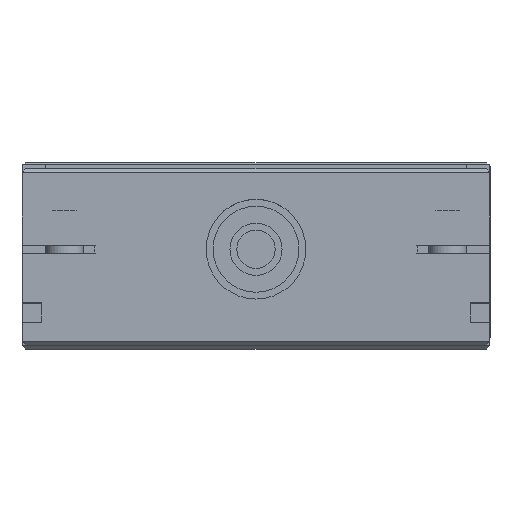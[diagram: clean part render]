
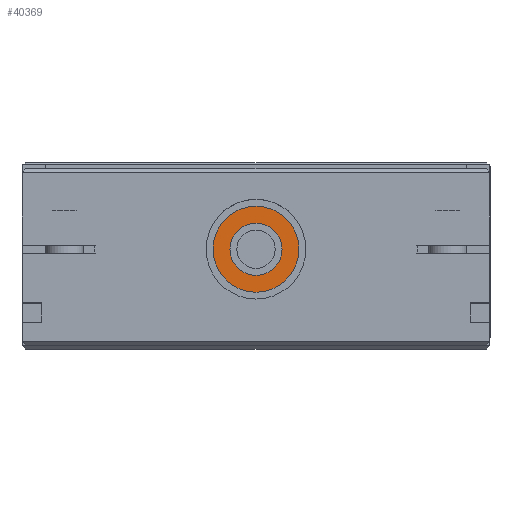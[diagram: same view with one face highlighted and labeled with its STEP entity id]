
A CAD part, top view. The second image highlights one B-rep face of the part: STEP entity #40369.
In plain terms, the highlighted planar face has unit normal (0, 0, 1) as drawn and (1, 0, 0) by its records, which use the part's own axes.
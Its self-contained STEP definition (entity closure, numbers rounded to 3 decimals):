
#2176 = AXIS2_PLACEMENT_3D ( 'NONE', #41716, #6918, #10391 ) ;
#2328 = DIRECTION ( 'NONE',  ( 0., 0., 1. ) ) ;
#4286 = EDGE_LOOP ( 'NONE', ( #45330, #15610 ) ) ;
#4612 = ORIENTED_EDGE ( 'NONE', *, *, #25713, .F. ) ;
#6918 = DIRECTION ( 'NONE',  ( -1., 0., 0. ) ) ;
#7222 = CARTESIAN_POINT ( 'NONE',  ( 298., 25., -6.8 ) ) ;
#7251 = CARTESIAN_POINT ( 'NONE',  ( 298., 25., 0. ) ) ;
#7312 = EDGE_CURVE ( 'NONE', #45542, #22311, #24017, .T. ) ;
#8129 = CIRCLE ( 'NONE', #11835, 11.2 ) ;
#8961 = CARTESIAN_POINT ( 'NONE',  ( 298., 25., 11.2 ) ) ;
#10391 = DIRECTION ( 'NONE',  ( 0., 0., 1. ) ) ;
#10949 = DIRECTION ( 'NONE',  ( 0., 0., 1. ) ) ;
#11835 = AXIS2_PLACEMENT_3D ( 'NONE', #38281, #34807, #2328 ) ;
#12779 = DIRECTION ( 'NONE',  ( -1., 0., 0. ) ) ;
#14975 = EDGE_CURVE ( 'NONE', #19769, #43166, #25768, .T. ) ;
#15610 = ORIENTED_EDGE ( 'NONE', *, *, #14975, .T. ) ;
#18314 = CARTESIAN_POINT ( 'NONE',  ( 298., 25., 0. ) ) ;
#19513 = FACE_OUTER_BOUND ( 'NONE', #19686, .T. ) ;
#19686 = EDGE_LOOP ( 'NONE', ( #4612, #25430 ) ) ;
#19769 = VERTEX_POINT ( 'NONE', #7222 ) ;
#19956 = FACE_BOUND ( 'NONE', #4286, .T. ) ;
#22311 = VERTEX_POINT ( 'NONE', #8961 ) ;
#23533 = AXIS2_PLACEMENT_3D ( 'NONE', #7251, #39970, #10949 ) ;
#24017 = CIRCLE ( 'NONE', #41804, 11.2 ) ;
#25193 = EDGE_CURVE ( 'NONE', #43166, #19769, #34801, .T. ) ;
#25430 = ORIENTED_EDGE ( 'NONE', *, *, #7312, .F. ) ;
#25713 = EDGE_CURVE ( 'NONE', #22311, #45542, #8129, .T. ) ;
#25768 = CIRCLE ( 'NONE', #23533, 6.8 ) ;
#29000 = CARTESIAN_POINT ( 'NONE',  ( 298., 25., -11.2 ) ) ;
#29959 = PLANE ( 'NONE',  #43875 ) ;
#33691 = CARTESIAN_POINT ( 'NONE',  ( 298., 31.8, 0. ) ) ;
#34360 = DIRECTION ( 'NONE',  ( 0., 0., 1. ) ) ;
#34801 = CIRCLE ( 'NONE', #2176, 6.8 ) ;
#34807 = DIRECTION ( 'NONE',  ( -1., 0., 0. ) ) ;
#38281 = CARTESIAN_POINT ( 'NONE',  ( 298., 25., 0. ) ) ;
#39450 = DIRECTION ( 'NONE',  ( -1., 0., 0. ) ) ;
#39795 = CARTESIAN_POINT ( 'NONE',  ( 298., 25., 6.8 ) ) ;
#39970 = DIRECTION ( 'NONE',  ( -1., 0., 0. ) ) ;
#40369 = ADVANCED_FACE ( 'NONE', ( #19513, #19956 ), #29959, .F. ) ;
#41716 = CARTESIAN_POINT ( 'NONE',  ( 298., 25., 0. ) ) ;
#41804 = AXIS2_PLACEMENT_3D ( 'NONE', #18314, #39450, #42448 ) ;
#42448 = DIRECTION ( 'NONE',  ( 0., 0., 1. ) ) ;
#43166 = VERTEX_POINT ( 'NONE', #39795 ) ;
#43875 = AXIS2_PLACEMENT_3D ( 'NONE', #33691, #12779, #34360 ) ;
#45330 = ORIENTED_EDGE ( 'NONE', *, *, #25193, .T. ) ;
#45542 = VERTEX_POINT ( 'NONE', #29000 ) ;
